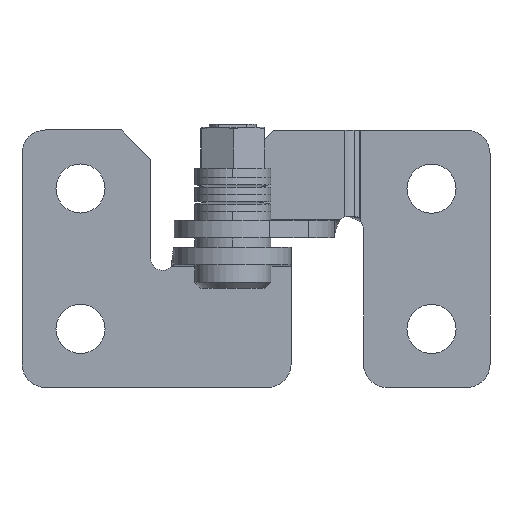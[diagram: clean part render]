
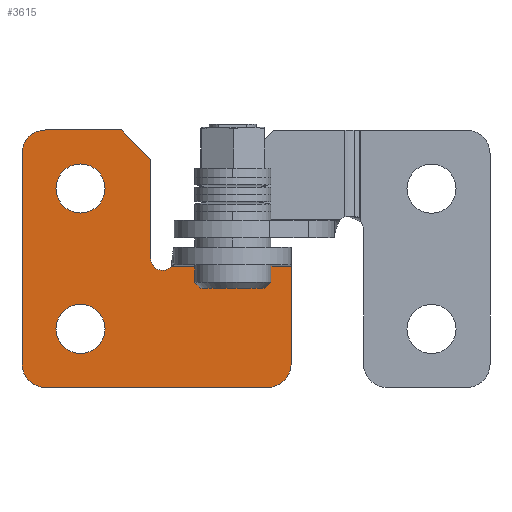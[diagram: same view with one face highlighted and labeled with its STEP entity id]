
A CAD part, front view. The second image highlights one B-rep face of the part: STEP entity #3615.
In plain terms, the highlighted planar face has unit normal (0, -1, 0).
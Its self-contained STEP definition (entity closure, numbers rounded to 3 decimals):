
#38 = LINE ( 'NONE', #1126, #4551 ) ;
#45 = VERTEX_POINT ( 'NONE', #928 ) ;
#78 = ORIENTED_EDGE ( 'NONE', *, *, #5115, .F. ) ;
#110 = DIRECTION ( 'NONE',  ( 1., 0., 0. ) ) ;
#338 = CARTESIAN_POINT ( 'NONE',  ( -38.612, 18.221, 36. ) ) ;
#396 = CARTESIAN_POINT ( 'NONE',  ( -56.612, 18.221, 24. ) ) ;
#474 = VERTEX_POINT ( 'NONE', #1455 ) ;
#518 = PLANE ( 'NONE',  #4363 ) ;
#539 = ORIENTED_EDGE ( 'NONE', *, *, #3762, .F. ) ;
#673 = VERTEX_POINT ( 'NONE', #1715 ) ;
#700 = LINE ( 'NONE', #2919, #2746 ) ;
#773 = AXIS2_PLACEMENT_3D ( 'NONE', #3367, #1261, #4723 ) ;
#857 = CARTESIAN_POINT ( 'NONE',  ( -48.834, 18.221, 29.372 ) ) ;
#864 = ORIENTED_EDGE ( 'NONE', *, *, #3926, .F. ) ;
#918 = CIRCLE ( 'NONE', #1410, 2. ) ;
#928 = CARTESIAN_POINT ( 'NONE',  ( -53.112, 18.221, 41. ) ) ;
#1039 = VECTOR ( 'NONE', #2297, 1000. ) ;
#1057 = DIRECTION ( 'NONE',  ( 0., 1., 0. ) ) ;
#1058 = EDGE_CURVE ( 'NONE', #4814, #4735, #3279, .T. ) ;
#1062 = AXIS2_PLACEMENT_3D ( 'NONE', #1220, #5025, #1257 ) ;
#1084 = CARTESIAN_POINT ( 'NONE',  ( -59.612, 18.221, 39. ) ) ;
#1099 = CIRCLE ( 'NONE', #2220, 1. ) ;
#1105 = CIRCLE ( 'NONE', #3417, 2.1 ) ;
#1126 = CARTESIAN_POINT ( 'NONE',  ( -45.862, 18.221, 33.75 ) ) ;
#1136 = VERTEX_POINT ( 'NONE', #4214 ) ;
#1160 = EDGE_CURVE ( 'NONE', #673, #2362, #4682, .T. ) ;
#1177 = ORIENTED_EDGE ( 'NONE', *, *, #3351, .F. ) ;
#1189 = EDGE_CURVE ( 'NONE', #1877, #2074, #700, .T. ) ;
#1220 = CARTESIAN_POINT ( 'NONE',  ( -56.612, 18.221, 36. ) ) ;
#1257 = DIRECTION ( 'NONE',  ( 1., 0., 0. ) ) ;
#1261 = DIRECTION ( 'NONE',  ( 0., 1., 0. ) ) ;
#1354 = VECTOR ( 'NONE', #4496, 1000. ) ;
#1410 = AXIS2_PLACEMENT_3D ( 'NONE', #3586, #1057, #4452 ) ;
#1412 = LINE ( 'NONE', #4644, #4541 ) ;
#1437 = DIRECTION ( 'NONE',  ( 0., 1., 0. ) ) ;
#1455 = CARTESIAN_POINT ( 'NONE',  ( -61.612, 18.221, 39. ) ) ;
#1492 = EDGE_LOOP ( 'NONE', ( #2740, #78, #1177, #3878, #864, #2452, #539, #3661, #4743, #5007, #2946 ) ) ;
#1557 = CIRCLE ( 'NONE', #5364, 2.1 ) ;
#1579 = CARTESIAN_POINT ( 'NONE',  ( -59.612, 18.221, 19. ) ) ;
#1618 = CARTESIAN_POINT ( 'NONE',  ( -54.512, 18.221, 24. ) ) ;
#1648 = DIRECTION ( 'NONE',  ( -1., 0., 0. ) ) ;
#1679 = AXIS2_PLACEMENT_3D ( 'NONE', #396, #4695, #3358 ) ;
#1705 = CARTESIAN_POINT ( 'NONE',  ( -50.612, 18.221, 30. ) ) ;
#1715 = CARTESIAN_POINT ( 'NONE',  ( -38.612, 18.221, 29.372 ) ) ;
#1729 = EDGE_CURVE ( 'NONE', #5187, #4689, #5037, .T. ) ;
#1745 = EDGE_LOOP ( 'NONE', ( #2034, #1800 ) ) ;
#1784 = LINE ( 'NONE', #4983, #5306 ) ;
#1800 = ORIENTED_EDGE ( 'NONE', *, *, #1729, .T. ) ;
#1839 = CARTESIAN_POINT ( 'NONE',  ( -56.612, 18.221, 24. ) ) ;
#1876 = CARTESIAN_POINT ( 'NONE',  ( -61.612, 18.221, 41. ) ) ;
#1877 = VERTEX_POINT ( 'NONE', #2171 ) ;
#1905 = CARTESIAN_POINT ( 'NONE',  ( -54.512, 18.221, 36. ) ) ;
#2034 = ORIENTED_EDGE ( 'NONE', *, *, #3381, .T. ) ;
#2074 = VERTEX_POINT ( 'NONE', #1579 ) ;
#2171 = CARTESIAN_POINT ( 'NONE',  ( -40.612, 18.221, 19. ) ) ;
#2195 = ORIENTED_EDGE ( 'NONE', *, *, #4495, .T. ) ;
#2220 = AXIS2_PLACEMENT_3D ( 'NONE', #2254, #2651, #3472 ) ;
#2254 = CARTESIAN_POINT ( 'NONE',  ( -49.612, 18.221, 30. ) ) ;
#2297 = DIRECTION ( 'NONE',  ( 1., 0., 0. ) ) ;
#2362 = VERTEX_POINT ( 'NONE', #3869 ) ;
#2421 = CIRCLE ( 'NONE', #4225, 2. ) ;
#2452 = ORIENTED_EDGE ( 'NONE', *, *, #2846, .F. ) ;
#2586 = CARTESIAN_POINT ( 'NONE',  ( -50.612, 18.221, 38.5 ) ) ;
#2627 = FACE_OUTER_BOUND ( 'NONE', #1492, .T. ) ;
#2651 = DIRECTION ( 'NONE',  ( 0., -1., 0. ) ) ;
#2740 = ORIENTED_EDGE ( 'NONE', *, *, #1160, .F. ) ;
#2746 = VECTOR ( 'NONE', #1648, 1000. ) ;
#2774 = ORIENTED_EDGE ( 'NONE', *, *, #3073, .T. ) ;
#2791 = EDGE_CURVE ( 'NONE', #2362, #1877, #5362, .T. ) ;
#2793 = VERTEX_POINT ( 'NONE', #5151 ) ;
#2846 = EDGE_CURVE ( 'NONE', #1136, #45, #3414, .T. ) ;
#2919 = CARTESIAN_POINT ( 'NONE',  ( -61.612, 18.221, 19. ) ) ;
#2935 = DIRECTION ( 'NONE',  ( 0., 0., 1. ) ) ;
#2946 = ORIENTED_EDGE ( 'NONE', *, *, #2791, .F. ) ;
#3073 = EDGE_CURVE ( 'NONE', #3725, #4547, #1105, .T. ) ;
#3080 = DIRECTION ( 'NONE',  ( 0., 1., 0. ) ) ;
#3279 = LINE ( 'NONE', #4975, #1354 ) ;
#3351 = EDGE_CURVE ( 'NONE', #4735, #4092, #1099, .T. ) ;
#3358 = DIRECTION ( 'NONE',  ( 1., 0., 0. ) ) ;
#3367 = CARTESIAN_POINT ( 'NONE',  ( -40.612, 18.221, 21. ) ) ;
#3381 = EDGE_CURVE ( 'NONE', #4689, #5187, #1557, .T. ) ;
#3414 = LINE ( 'NONE', #1876, #1039 ) ;
#3417 = AXIS2_PLACEMENT_3D ( 'NONE', #4597, #5073, #4236 ) ;
#3435 = CARTESIAN_POINT ( 'NONE',  ( -58.712, 18.221, 36. ) ) ;
#3448 = CARTESIAN_POINT ( 'NONE',  ( -43.612, 18.221, 36. ) ) ;
#3472 = DIRECTION ( 'NONE',  ( 1., 0., 0. ) ) ;
#3526 = EDGE_LOOP ( 'NONE', ( #2195, #2774 ) ) ;
#3534 = VECTOR ( 'NONE', #5024, 1000. ) ;
#3586 = CARTESIAN_POINT ( 'NONE',  ( -59.612, 18.221, 21. ) ) ;
#3615 = ADVANCED_FACE ( 'NONE', ( #4966, #4901, #2627 ), #518, .T. ) ;
#3661 = ORIENTED_EDGE ( 'NONE', *, *, #4463, .F. ) ;
#3725 = VERTEX_POINT ( 'NONE', #1905 ) ;
#3762 = EDGE_CURVE ( 'NONE', #474, #1136, #2421, .T. ) ;
#3869 = CARTESIAN_POINT ( 'NONE',  ( -38.612, 18.221, 21. ) ) ;
#3878 = ORIENTED_EDGE ( 'NONE', *, *, #1058, .F. ) ;
#3914 = DIRECTION ( 'NONE',  ( 1., 0., 0. ) ) ;
#3926 = EDGE_CURVE ( 'NONE', #45, #4814, #38, .T. ) ;
#4092 = VERTEX_POINT ( 'NONE', #857 ) ;
#4214 = CARTESIAN_POINT ( 'NONE',  ( -59.612, 18.221, 41. ) ) ;
#4225 = AXIS2_PLACEMENT_3D ( 'NONE', #1084, #1437, #4888 ) ;
#4236 = DIRECTION ( 'NONE',  ( 1., 0., 0. ) ) ;
#4363 = AXIS2_PLACEMENT_3D ( 'NONE', #3448, #5218, #110 ) ;
#4452 = DIRECTION ( 'NONE',  ( 0., 0., 1. ) ) ;
#4463 = EDGE_CURVE ( 'NONE', #2793, #474, #1412, .T. ) ;
#4495 = EDGE_CURVE ( 'NONE', #4547, #3725, #4818, .T. ) ;
#4496 = DIRECTION ( 'NONE',  ( 0., 0., -1. ) ) ;
#4541 = VECTOR ( 'NONE', #2935, 1000. ) ;
#4547 = VERTEX_POINT ( 'NONE', #3435 ) ;
#4551 = VECTOR ( 'NONE', #4991, 1000. ) ;
#4597 = CARTESIAN_POINT ( 'NONE',  ( -56.612, 18.221, 36. ) ) ;
#4644 = CARTESIAN_POINT ( 'NONE',  ( -61.612, 18.221, 41. ) ) ;
#4682 = LINE ( 'NONE', #338, #3534 ) ;
#4689 = VERTEX_POINT ( 'NONE', #4802 ) ;
#4695 = DIRECTION ( 'NONE',  ( 0., 1., 0. ) ) ;
#4723 = DIRECTION ( 'NONE',  ( 0., 0., 1. ) ) ;
#4735 = VERTEX_POINT ( 'NONE', #1705 ) ;
#4743 = ORIENTED_EDGE ( 'NONE', *, *, #4915, .F. ) ;
#4802 = CARTESIAN_POINT ( 'NONE',  ( -58.712, 18.221, 24. ) ) ;
#4814 = VERTEX_POINT ( 'NONE', #2586 ) ;
#4818 = CIRCLE ( 'NONE', #1062, 2.1 ) ;
#4888 = DIRECTION ( 'NONE',  ( 0., 0., 1. ) ) ;
#4901 = FACE_BOUND ( 'NONE', #1745, .T. ) ;
#4915 = EDGE_CURVE ( 'NONE', #2074, #2793, #918, .T. ) ;
#4966 = FACE_BOUND ( 'NONE', #3526, .T. ) ;
#4975 = CARTESIAN_POINT ( 'NONE',  ( -50.612, 18.221, 30. ) ) ;
#4983 = CARTESIAN_POINT ( 'NONE',  ( -43.612, 18.221, 29.372 ) ) ;
#4991 = DIRECTION ( 'NONE',  ( 0.707, 0., -0.707 ) ) ;
#5007 = ORIENTED_EDGE ( 'NONE', *, *, #1189, .F. ) ;
#5024 = DIRECTION ( 'NONE',  ( 0., 0., -1. ) ) ;
#5025 = DIRECTION ( 'NONE',  ( 0., 1., 0. ) ) ;
#5037 = CIRCLE ( 'NONE', #1679, 2.1 ) ;
#5073 = DIRECTION ( 'NONE',  ( 0., 1., 0. ) ) ;
#5115 = EDGE_CURVE ( 'NONE', #4092, #673, #1784, .T. ) ;
#5151 = CARTESIAN_POINT ( 'NONE',  ( -61.612, 18.221, 21. ) ) ;
#5187 = VERTEX_POINT ( 'NONE', #1618 ) ;
#5218 = DIRECTION ( 'NONE',  ( 0., -1., 0. ) ) ;
#5306 = VECTOR ( 'NONE', #5390, 1000. ) ;
#5362 = CIRCLE ( 'NONE', #773, 2. ) ;
#5364 = AXIS2_PLACEMENT_3D ( 'NONE', #1839, #3080, #3914 ) ;
#5390 = DIRECTION ( 'NONE',  ( 1., 0., 0. ) ) ;
